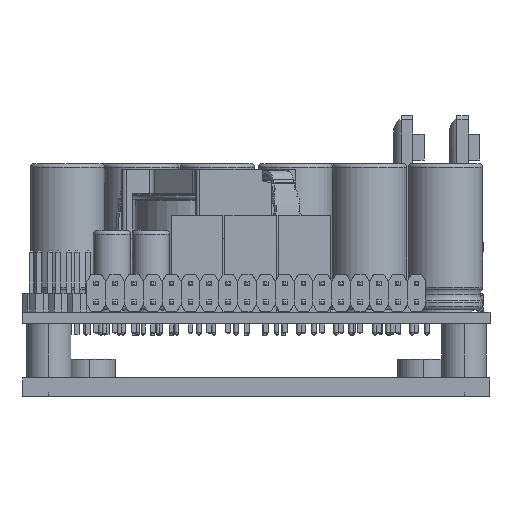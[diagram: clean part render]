
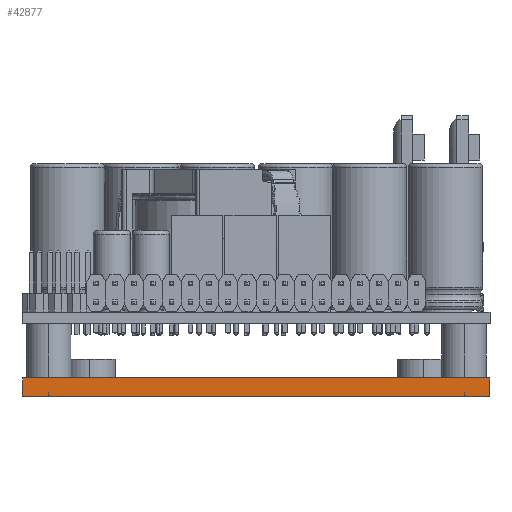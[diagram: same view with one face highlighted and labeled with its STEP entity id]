
A CAD part, front view. The second image highlights one B-rep face of the part: STEP entity #42877.
In plain terms, the highlighted planar face has unit normal (0, -1, 0) as drawn and (0, 0, 1) by its records, which use the part's own axes.
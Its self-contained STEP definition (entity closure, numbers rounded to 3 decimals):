
#4600 = LINE ( 'NONE', #51027, #9160 ) ;
#7310 = VERTEX_POINT ( 'NONE', #86987 ) ;
#9160 = VECTOR ( 'NONE', #17553, 1000. ) ;
#9179 = EDGE_CURVE ( 'NONE', #51726, #14021, #66660, .T. ) ;
#13610 = LINE ( 'NONE', #55088, #44202 ) ;
#14021 = VERTEX_POINT ( 'NONE', #82710 ) ;
#16883 = CARTESIAN_POINT ( 'NONE',  ( 0., 2.5, 0. ) ) ;
#17553 = DIRECTION ( 'NONE',  ( 0., -1., 0. ) ) ;
#19822 = ORIENTED_EDGE ( 'NONE', *, *, #85507, .T. ) ;
#29474 = ORIENTED_EDGE ( 'NONE', *, *, #9179, .T. ) ;
#32307 = CARTESIAN_POINT ( 'NONE',  ( 0., 0., 0. ) ) ;
#33964 = VECTOR ( 'NONE', #46546, 1000. ) ;
#34373 = EDGE_LOOP ( 'NONE', ( #29474, #42522, #79276, #19822 ) ) ;
#36587 = EDGE_CURVE ( 'NONE', #51769, #7310, #42542, .T. ) ;
#39618 = VECTOR ( 'NONE', #69823, 1000. ) ;
#41248 = DIRECTION ( 'NONE',  ( 0., -1., 0. ) ) ;
#42522 = ORIENTED_EDGE ( 'NONE', *, *, #56809, .F. ) ;
#42542 = LINE ( 'NONE', #76990, #39618 ) ;
#42877 = ADVANCED_FACE ( 'NONE', ( #71383 ), #63291, .F. ) ;
#44202 = VECTOR ( 'NONE', #41248, 1000. ) ;
#46546 = DIRECTION ( 'NONE',  ( 1., 0., 0. ) ) ;
#48751 = CARTESIAN_POINT ( 'NONE',  ( 0., 2.5, 0. ) ) ;
#50357 = DIRECTION ( 'NONE',  ( 0., 0., -1. ) ) ;
#51027 = CARTESIAN_POINT ( 'NONE',  ( 0., 2.5, 0. ) ) ;
#51726 = VERTEX_POINT ( 'NONE', #74727 ) ;
#51769 = VERTEX_POINT ( 'NONE', #48751 ) ;
#55088 = CARTESIAN_POINT ( 'NONE',  ( 63., 2.5, 0. ) ) ;
#56809 = EDGE_CURVE ( 'NONE', #7310, #14021, #13610, .T. ) ;
#63291 = PLANE ( 'NONE',  #84062 ) ;
#66660 = LINE ( 'NONE', #32307, #33964 ) ;
#69823 = DIRECTION ( 'NONE',  ( 1., 0., 0. ) ) ;
#71383 = FACE_OUTER_BOUND ( 'NONE', #34373, .T. ) ;
#74727 = CARTESIAN_POINT ( 'NONE',  ( 0., 0., 0. ) ) ;
#76990 = CARTESIAN_POINT ( 'NONE',  ( 0., 2.5, 0. ) ) ;
#77640 = DIRECTION ( 'NONE',  ( 0., -1., 0. ) ) ;
#79276 = ORIENTED_EDGE ( 'NONE', *, *, #36587, .F. ) ;
#82710 = CARTESIAN_POINT ( 'NONE',  ( 63., 0., 0. ) ) ;
#84062 = AXIS2_PLACEMENT_3D ( 'NONE', #16883, #50357, #77640 ) ;
#85507 = EDGE_CURVE ( 'NONE', #51769, #51726, #4600, .T. ) ;
#86987 = CARTESIAN_POINT ( 'NONE',  ( 63., 2.5, 0. ) ) ;
